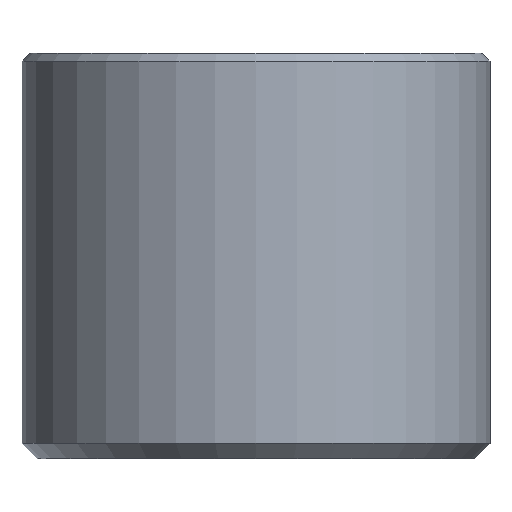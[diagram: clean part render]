
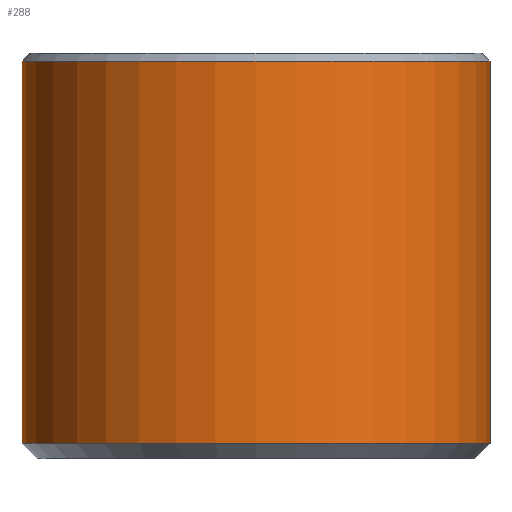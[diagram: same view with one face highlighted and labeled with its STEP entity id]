
A CAD part, front view. The second image highlights one B-rep face of the part: STEP entity #288.
In plain terms, the highlighted cylindrical face has radius 15 mm (diameter 30 mm), a partial arc.
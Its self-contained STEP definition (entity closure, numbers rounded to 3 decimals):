
#35=CARTESIAN_POINT('',(0.,0.,-0.5));
#36=DIRECTION('',(0.,0.,-1.));
#37=DIRECTION('',(1.,0.,0.));
#38=AXIS2_PLACEMENT_3D('',#35,#36,#37);
#40=DIRECTION('',(0.,0.,-1.));
#41=VECTOR('',#40,24.5);
#42=CARTESIAN_POINT('',(15.,0.,
-0.5));
#43=LINE('',#42,#41);
#44=CARTESIAN_POINT('',(0.,0.,-25.));
#45=DIRECTION('',(0.,0.,-1.));
#46=DIRECTION('',(1.,0.,0.));
#47=AXIS2_PLACEMENT_3D('',#44,#45,#46);
#49=DIRECTION('',(0.,0.,-1.));
#50=VECTOR('',#49,24.5);
#51=CARTESIAN_POINT('',(-15.,0.,
-0.5));
#52=LINE('',#51,#50);
#187=CARTESIAN_POINT('',(15.,0.,-25.));
#188=CARTESIAN_POINT('',(-15.,0.,-25.));
#189=VERTEX_POINT('',#187);
#190=VERTEX_POINT('',#188);
#199=CARTESIAN_POINT('',(-15.,0.,-0.5));
#200=CARTESIAN_POINT('',(15.,0.,-0.5));
#201=VERTEX_POINT('',#199);
#202=VERTEX_POINT('',#200);
#275=CARTESIAN_POINT('',(0.,0.,-27.3));
#276=DIRECTION('',(0.,0.,1.));
#277=DIRECTION('',(-1.,0.,0.));
#278=AXIS2_PLACEMENT_3D('',#275,#276,#277);
#279=CYLINDRICAL_SURFACE('',#278,15.);
#281=ORIENTED_EDGE('',*,*,#280,.F.);
#282=ORIENTED_EDGE('',*,*,#270,.T.);
#284=ORIENTED_EDGE('',*,*,#283,.T.);
#285=ORIENTED_EDGE('',*,*,#266,.F.);
#286=EDGE_LOOP('',(#281,#282,#284,#285));
#287=FACE_OUTER_BOUND('',#286,.F.);
#288=ADVANCED_FACE('',(#287),#279,.T.);
#39=CIRCLE('',#38,15.);
#48=CIRCLE('',#47,15.);
#266=EDGE_CURVE('',#201,#190,#52,.T.);
#270=EDGE_CURVE('',#202,#189,#43,.T.);
#280=EDGE_CURVE('',#202,#201,#39,.T.);
#283=EDGE_CURVE('',#189,#190,#48,.T.);
